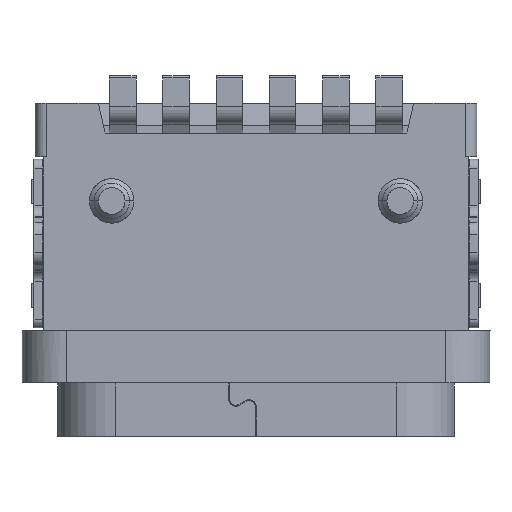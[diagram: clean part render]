
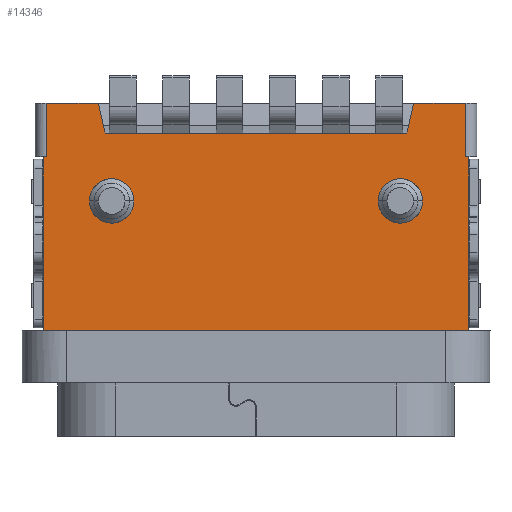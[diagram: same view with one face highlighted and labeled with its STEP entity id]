
A CAD part, front view. The second image highlights one B-rep face of the part: STEP entity #14346.
In plain terms, the highlighted planar face has unit normal (0, 1, 0).
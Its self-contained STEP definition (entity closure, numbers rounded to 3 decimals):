
#14159=CARTESIAN_POINT('Axis2P3D Location',(4.972,-2.23,2.738)) ;
#14164=CARTESIAN_POINT('Line Origine',(3.46,-2.23,7.615)) ;
#14168=CARTESIAN_POINT('Vertex',(3.385,-2.23,7.28)) ;
#14170=CARTESIAN_POINT('Vertex',(3.535,-2.23,7.95)) ;
#14173=CARTESIAN_POINT('Line Origine',(4.12,-2.23,7.95)) ;
#14177=CARTESIAN_POINT('Vertex',(4.705,-2.23,7.95)) ;
#14180=CARTESIAN_POINT('Line Origine',(4.705,-2.23,7.345)) ;
#14184=CARTESIAN_POINT('Vertex',(4.705,-2.23,6.74)) ;
#14187=CARTESIAN_POINT('Line Origine',(4.743,-2.23,6.74)) ;
#14191=CARTESIAN_POINT('Vertex',(4.78,-2.23,6.74)) ;
#14194=CARTESIAN_POINT('Line Origine',(4.78,-2.23,4.79)) ;
#14198=CARTESIAN_POINT('Vertex',(4.78,-2.23,2.84)) ;
#14201=CARTESIAN_POINT('Line Origine',(-0.015,-2.23,2.84)) ;
#14205=CARTESIAN_POINT('Vertex',(-4.81,-2.23,2.84)) ;
#14208=CARTESIAN_POINT('Line Origine',(-4.81,-2.23,4.79)) ;
#14212=CARTESIAN_POINT('Vertex',(-4.81,-2.23,6.74)) ;
#14215=CARTESIAN_POINT('Line Origine',(-4.773,-2.23,6.74)) ;
#14219=CARTESIAN_POINT('Vertex',(-4.735,-2.23,6.74)) ;
#14222=CARTESIAN_POINT('Line Origine',(-4.735,-2.23,7.345)) ;
#14226=CARTESIAN_POINT('Vertex',(-4.735,-2.23,7.95)) ;
#14229=CARTESIAN_POINT('Line Origine',(-4.15,-2.23,7.95)) ;
#14233=CARTESIAN_POINT('Vertex',(-3.565,-2.23,7.95)) ;
#14236=CARTESIAN_POINT('Line Origine',(-3.49,-2.23,7.615)) ;
#14240=CARTESIAN_POINT('Vertex',(-3.415,-2.23,7.28)) ;
#14243=CARTESIAN_POINT('Line Origine',(-0.015,-2.23,7.28)) ;
#14263=CARTESIAN_POINT('Control Point',(-3.765,-2.23,5.75)) ;
#14264=CARTESIAN_POINT('Control Point',(-3.765,-2.23,5.638)) ;
#14265=CARTESIAN_POINT('Control Point',(-3.673,-2.23,5.376)) ;
#14266=CARTESIAN_POINT('Control Point',(-3.415,-2.23,5.249)) ;
#14267=CARTESIAN_POINT('Control Point',(-3.265,-2.23,5.25)) ;
#14268=CARTESIAN_POINT('Vertex',(-3.765,-2.23,5.75)) ;
#14270=CARTESIAN_POINT('Vertex',(-3.265,-2.23,5.25)) ;
#14274=CARTESIAN_POINT('Control Point',(-3.265,-2.23,5.25)) ;
#14275=CARTESIAN_POINT('Control Point',(-3.115,-2.23,5.249)) ;
#14276=CARTESIAN_POINT('Control Point',(-2.857,-2.23,5.376)) ;
#14277=CARTESIAN_POINT('Control Point',(-2.765,-2.23,5.638)) ;
#14278=CARTESIAN_POINT('Control Point',(-2.765,-2.23,5.75)) ;
#14279=CARTESIAN_POINT('Vertex',(-2.765,-2.23,5.75)) ;
#14283=CARTESIAN_POINT('Control Point',(-2.765,-2.23,5.75)) ;
#14284=CARTESIAN_POINT('Control Point',(-2.765,-2.23,5.862)) ;
#14285=CARTESIAN_POINT('Control Point',(-2.857,-2.23,6.124)) ;
#14286=CARTESIAN_POINT('Control Point',(-3.115,-2.23,6.251)) ;
#14287=CARTESIAN_POINT('Control Point',(-3.265,-2.23,6.25)) ;
#14288=CARTESIAN_POINT('Vertex',(-3.265,-2.23,6.25)) ;
#14292=CARTESIAN_POINT('Control Point',(-3.265,-2.23,6.25)) ;
#14293=CARTESIAN_POINT('Control Point',(-3.415,-2.23,6.251)) ;
#14294=CARTESIAN_POINT('Control Point',(-3.673,-2.23,6.124)) ;
#14295=CARTESIAN_POINT('Control Point',(-3.765,-2.23,5.862)) ;
#14296=CARTESIAN_POINT('Control Point',(-3.765,-2.23,5.75)) ;
#14305=CARTESIAN_POINT('Control Point',(2.735,-2.23,5.75)) ;
#14306=CARTESIAN_POINT('Control Point',(2.735,-2.23,5.638)) ;
#14307=CARTESIAN_POINT('Control Point',(2.827,-2.23,5.376)) ;
#14308=CARTESIAN_POINT('Control Point',(3.085,-2.23,5.249)) ;
#14309=CARTESIAN_POINT('Control Point',(3.235,-2.23,5.25)) ;
#14310=CARTESIAN_POINT('Vertex',(2.735,-2.23,5.75)) ;
#14312=CARTESIAN_POINT('Vertex',(3.235,-2.23,5.25)) ;
#14316=CARTESIAN_POINT('Control Point',(3.235,-2.23,5.25)) ;
#14317=CARTESIAN_POINT('Control Point',(3.385,-2.23,5.249)) ;
#14318=CARTESIAN_POINT('Control Point',(3.643,-2.23,5.376)) ;
#14319=CARTESIAN_POINT('Control Point',(3.735,-2.23,5.638)) ;
#14320=CARTESIAN_POINT('Control Point',(3.735,-2.23,5.75)) ;
#14321=CARTESIAN_POINT('Vertex',(3.735,-2.23,5.75)) ;
#14325=CARTESIAN_POINT('Control Point',(3.735,-2.23,5.75)) ;
#14326=CARTESIAN_POINT('Control Point',(3.735,-2.23,5.862)) ;
#14327=CARTESIAN_POINT('Control Point',(3.643,-2.23,6.124)) ;
#14328=CARTESIAN_POINT('Control Point',(3.385,-2.23,6.251)) ;
#14329=CARTESIAN_POINT('Control Point',(3.235,-2.23,6.25)) ;
#14330=CARTESIAN_POINT('Vertex',(3.235,-2.23,6.25)) ;
#14334=CARTESIAN_POINT('Control Point',(3.235,-2.23,6.25)) ;
#14335=CARTESIAN_POINT('Control Point',(3.085,-2.23,6.251)) ;
#14336=CARTESIAN_POINT('Control Point',(2.827,-2.23,6.124)) ;
#14337=CARTESIAN_POINT('Control Point',(2.735,-2.23,5.862)) ;
#14338=CARTESIAN_POINT('Control Point',(2.735,-2.23,5.75)) ;
#14160=DIRECTION('Axis2P3D Direction',(0.,1.,-0.)) ;
#14161=DIRECTION('Axis2P3D XDirection',(-1.,0.,0.)) ;
#14165=DIRECTION('Vector Direction',(0.218,0.,0.976)) ;
#14174=DIRECTION('Vector Direction',(1.,0.,0.)) ;
#14181=DIRECTION('Vector Direction',(0.,0.,-1.)) ;
#14188=DIRECTION('Vector Direction',(1.,0.,0.)) ;
#14195=DIRECTION('Vector Direction',(0.,0.,-1.)) ;
#14202=DIRECTION('Vector Direction',(-1.,0.,0.)) ;
#14209=DIRECTION('Vector Direction',(0.,0.,1.)) ;
#14216=DIRECTION('Vector Direction',(1.,0.,0.)) ;
#14223=DIRECTION('Vector Direction',(0.,0.,1.)) ;
#14230=DIRECTION('Vector Direction',(1.,0.,0.)) ;
#14237=DIRECTION('Vector Direction',(0.218,0.,-0.976)) ;
#14244=DIRECTION('Vector Direction',(1.,0.,0.)) ;
#14162=AXIS2_PLACEMENT_3D('Plane Axis2P3D',#14159,#14160,#14161) ;
#14249=ORIENTED_EDGE('',*,*,#14172,.T.) ;
#14250=ORIENTED_EDGE('',*,*,#14179,.T.) ;
#14251=ORIENTED_EDGE('',*,*,#14186,.T.) ;
#14252=ORIENTED_EDGE('',*,*,#14193,.T.) ;
#14253=ORIENTED_EDGE('',*,*,#14200,.T.) ;
#14254=ORIENTED_EDGE('',*,*,#14207,.T.) ;
#14255=ORIENTED_EDGE('',*,*,#14214,.T.) ;
#14256=ORIENTED_EDGE('',*,*,#14221,.T.) ;
#14257=ORIENTED_EDGE('',*,*,#14228,.T.) ;
#14258=ORIENTED_EDGE('',*,*,#14235,.T.) ;
#14259=ORIENTED_EDGE('',*,*,#14242,.T.) ;
#14260=ORIENTED_EDGE('',*,*,#14247,.T.) ;
#14299=ORIENTED_EDGE('',*,*,#14272,.T.) ;
#14300=ORIENTED_EDGE('',*,*,#14281,.T.) ;
#14301=ORIENTED_EDGE('',*,*,#14290,.T.) ;
#14302=ORIENTED_EDGE('',*,*,#14297,.T.) ;
#14341=ORIENTED_EDGE('',*,*,#14314,.T.) ;
#14342=ORIENTED_EDGE('',*,*,#14323,.T.) ;
#14343=ORIENTED_EDGE('',*,*,#14332,.T.) ;
#14344=ORIENTED_EDGE('',*,*,#14339,.T.) ;
#14303=FACE_BOUND('',#14298,.T.) ;
#14345=FACE_BOUND('',#14340,.T.) ;
#14166=VECTOR('Line Direction',#14165,1.) ;
#14175=VECTOR('Line Direction',#14174,1.) ;
#14182=VECTOR('Line Direction',#14181,1.) ;
#14189=VECTOR('Line Direction',#14188,1.) ;
#14196=VECTOR('Line Direction',#14195,1.) ;
#14203=VECTOR('Line Direction',#14202,1.) ;
#14210=VECTOR('Line Direction',#14209,1.) ;
#14217=VECTOR('Line Direction',#14216,1.) ;
#14224=VECTOR('Line Direction',#14223,1.) ;
#14231=VECTOR('Line Direction',#14230,1.) ;
#14238=VECTOR('Line Direction',#14237,1.) ;
#14245=VECTOR('Line Direction',#14244,1.) ;
#14346=ADVANCED_FACE(' TRM_SRF220',(#14261,#14303,#14345),#14163,.T.) ;
#14262=B_SPLINE_CURVE_WITH_KNOTS('',3,(#14263,#14264,#14265,#14266,#14267),.UNSPECIFIED.,.F.,.U.,(4,1,4),(0.,0.355,0.828),.UNSPECIFIED.) ;
#14273=B_SPLINE_CURVE_WITH_KNOTS('',3,(#14274,#14275,#14276,#14277,#14278),.UNSPECIFIED.,.F.,.U.,(4,1,4),(0.,0.473,0.828),.UNSPECIFIED.) ;
#14282=B_SPLINE_CURVE_WITH_KNOTS('',3,(#14283,#14284,#14285,#14286,#14287),.UNSPECIFIED.,.F.,.U.,(4,1,4),(0.,0.355,0.828),.UNSPECIFIED.) ;
#14291=B_SPLINE_CURVE_WITH_KNOTS('',3,(#14292,#14293,#14294,#14295,#14296),.UNSPECIFIED.,.F.,.U.,(4,1,4),(0.,0.473,0.828),.UNSPECIFIED.) ;
#14304=B_SPLINE_CURVE_WITH_KNOTS('',3,(#14305,#14306,#14307,#14308,#14309),.UNSPECIFIED.,.F.,.U.,(4,1,4),(0.,0.355,0.828),.UNSPECIFIED.) ;
#14315=B_SPLINE_CURVE_WITH_KNOTS('',3,(#14316,#14317,#14318,#14319,#14320),.UNSPECIFIED.,.F.,.U.,(4,1,4),(0.,0.473,0.828),.UNSPECIFIED.) ;
#14324=B_SPLINE_CURVE_WITH_KNOTS('',3,(#14325,#14326,#14327,#14328,#14329),.UNSPECIFIED.,.F.,.U.,(4,1,4),(0.,0.355,0.828),.UNSPECIFIED.) ;
#14333=B_SPLINE_CURVE_WITH_KNOTS('',3,(#14334,#14335,#14336,#14337,#14338),.UNSPECIFIED.,.F.,.U.,(4,1,4),(0.,0.473,0.828),.UNSPECIFIED.) ;
#14172=EDGE_CURVE('',#14169,#14171,#14167,.T.) ;
#14179=EDGE_CURVE('',#14171,#14178,#14176,.T.) ;
#14186=EDGE_CURVE('',#14178,#14185,#14183,.T.) ;
#14193=EDGE_CURVE('',#14185,#14192,#14190,.T.) ;
#14200=EDGE_CURVE('',#14192,#14199,#14197,.T.) ;
#14207=EDGE_CURVE('',#14199,#14206,#14204,.T.) ;
#14214=EDGE_CURVE('',#14206,#14213,#14211,.T.) ;
#14221=EDGE_CURVE('',#14213,#14220,#14218,.T.) ;
#14228=EDGE_CURVE('',#14220,#14227,#14225,.T.) ;
#14235=EDGE_CURVE('',#14227,#14234,#14232,.T.) ;
#14242=EDGE_CURVE('',#14234,#14241,#14239,.T.) ;
#14247=EDGE_CURVE('',#14241,#14169,#14246,.T.) ;
#14272=EDGE_CURVE('',#14269,#14271,#14262,.T.) ;
#14281=EDGE_CURVE('',#14271,#14280,#14273,.T.) ;
#14290=EDGE_CURVE('',#14280,#14289,#14282,.T.) ;
#14297=EDGE_CURVE('',#14289,#14269,#14291,.T.) ;
#14314=EDGE_CURVE('',#14311,#14313,#14304,.T.) ;
#14323=EDGE_CURVE('',#14313,#14322,#14315,.T.) ;
#14332=EDGE_CURVE('',#14322,#14331,#14324,.T.) ;
#14339=EDGE_CURVE('',#14331,#14311,#14333,.T.) ;
#14248=EDGE_LOOP('',(#14249,#14250,#14251,#14252,#14253,#14254,#14255,#14256,#14257,#14258,#14259,#14260)) ;
#14298=EDGE_LOOP('',(#14299,#14300,#14301,#14302)) ;
#14340=EDGE_LOOP('',(#14341,#14342,#14343,#14344)) ;
#14261=FACE_OUTER_BOUND('',#14248,.T.) ;
#14167=LINE('Line',#14164,#14166) ;
#14176=LINE('Line',#14173,#14175) ;
#14183=LINE('Line',#14180,#14182) ;
#14190=LINE('Line',#14187,#14189) ;
#14197=LINE('Line',#14194,#14196) ;
#14204=LINE('Line',#14201,#14203) ;
#14211=LINE('Line',#14208,#14210) ;
#14218=LINE('Line',#14215,#14217) ;
#14225=LINE('Line',#14222,#14224) ;
#14232=LINE('Line',#14229,#14231) ;
#14239=LINE('Line',#14236,#14238) ;
#14246=LINE('Line',#14243,#14245) ;
#14163=PLANE('',#14162) ;
#14169=VERTEX_POINT('',#14168) ;
#14171=VERTEX_POINT('',#14170) ;
#14178=VERTEX_POINT('',#14177) ;
#14185=VERTEX_POINT('',#14184) ;
#14192=VERTEX_POINT('',#14191) ;
#14199=VERTEX_POINT('',#14198) ;
#14206=VERTEX_POINT('',#14205) ;
#14213=VERTEX_POINT('',#14212) ;
#14220=VERTEX_POINT('',#14219) ;
#14227=VERTEX_POINT('',#14226) ;
#14234=VERTEX_POINT('',#14233) ;
#14241=VERTEX_POINT('',#14240) ;
#14269=VERTEX_POINT('',#14268) ;
#14271=VERTEX_POINT('',#14270) ;
#14280=VERTEX_POINT('',#14279) ;
#14289=VERTEX_POINT('',#14288) ;
#14311=VERTEX_POINT('',#14310) ;
#14313=VERTEX_POINT('',#14312) ;
#14322=VERTEX_POINT('',#14321) ;
#14331=VERTEX_POINT('',#14330) ;
